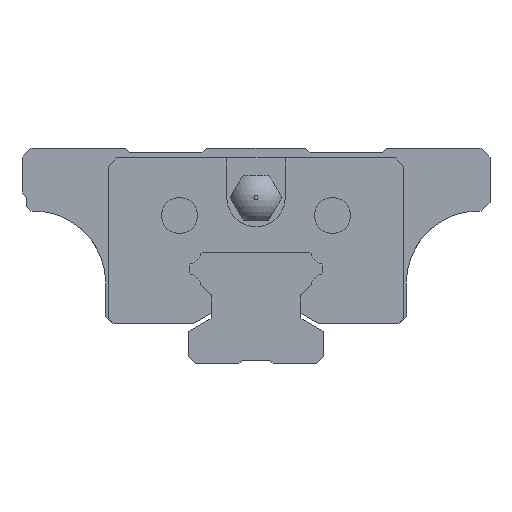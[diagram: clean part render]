
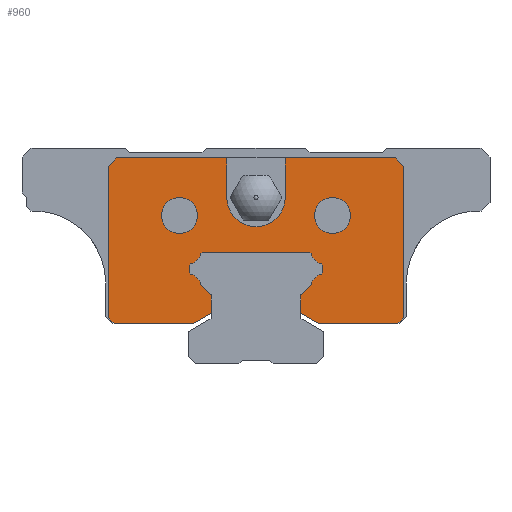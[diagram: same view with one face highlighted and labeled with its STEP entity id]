
A CAD part, front view. The second image highlights one B-rep face of the part: STEP entity #960.
In plain terms, the highlighted planar face has unit normal (0, -1, 0).
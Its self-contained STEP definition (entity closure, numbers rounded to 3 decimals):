
#229=PLANE('',#2963);
#390=LINE('',#4144,#688);
#393=LINE('',#4151,#691);
#396=LINE('',#4157,#694);
#399=LINE('',#4163,#697);
#403=LINE('',#4175,#701);
#406=LINE('',#4181,#704);
#409=LINE('',#4187,#707);
#413=LINE('',#4199,#711);
#416=LINE('',#4205,#714);
#419=LINE('',#4211,#717);
#423=LINE('',#4223,#721);
#426=LINE('',#4229,#724);
#429=LINE('',#4235,#727);
#433=LINE('',#4247,#731);
#436=LINE('',#4253,#734);
#439=LINE('',#4259,#737);
#443=LINE('',#4267,#741);
#503=LINE('',#4429,#801);
#505=LINE('',#4433,#803);
#507=LINE('',#4437,#805);
#512=LINE('',#4447,#810);
#514=LINE('',#4451,#812);
#515=LINE('',#4453,#813);
#517=LINE('',#4457,#815);
#518=LINE('',#4459,#816);
#519=LINE('',#4468,#817);
#520=LINE('',#4469,#818);
#688=VECTOR('',#3361,1.);
#691=VECTOR('',#3366,1.);
#694=VECTOR('',#3371,1.);
#697=VECTOR('',#3376,1.);
#701=VECTOR('',#3388,1.);
#704=VECTOR('',#3393,1.);
#707=VECTOR('',#3398,1.);
#711=VECTOR('',#3410,1.);
#714=VECTOR('',#3415,1.);
#717=VECTOR('',#3420,1.);
#721=VECTOR('',#3432,1.);
#724=VECTOR('',#3437,1.);
#727=VECTOR('',#3442,1.);
#731=VECTOR('',#3454,1.);
#734=VECTOR('',#3459,1.);
#737=VECTOR('',#3464,1.);
#741=VECTOR('',#3470,1.);
#801=VECTOR('',#3590,1.);
#803=VECTOR('',#3594,1.);
#805=VECTOR('',#3596,1.);
#810=VECTOR('',#3603,1.);
#812=VECTOR('',#3607,1.);
#813=VECTOR('',#3610,1.);
#815=VECTOR('',#3614,1.);
#816=VECTOR('',#3617,1.);
#817=VECTOR('',#3626,1.);
#818=VECTOR('',#3627,1.);
#960=ADVANCED_FACE('',(#1147,#1148,#1097),#229,.F.);
#1097=FACE_OUTER_BOUND('',#1300,.T.);
#1147=FACE_BOUND('',#1298,.T.);
#1148=FACE_BOUND('',#1299,.T.);
#1298=EDGE_LOOP('',(#1935));
#1299=EDGE_LOOP('',(#1936));
#1300=EDGE_LOOP('',(#1937,#1938,#1939,#1940,#1941,#1942,#1943,#1944,#1945,
#1946,#1947,#1948,#1949,#1950,#1951,#1952,#1953,#1954,#1955,#1956,#1957,
#1958,#1959,#1960,#1961,#1962,#1963,#1964,#1965,#1966,#1967,#1968));
#1935=ORIENTED_EDGE('',*,*,#2674,.F.);
#1936=ORIENTED_EDGE('',*,*,#2675,.F.);
#1937=ORIENTED_EDGE('',*,*,#2676,.F.);
#1938=ORIENTED_EDGE('',*,*,#2677,.T.);
#1939=ORIENTED_EDGE('',*,*,#2662,.F.);
#1940=ORIENTED_EDGE('',*,*,#2667,.F.);
#1941=ORIENTED_EDGE('',*,*,#2669,.T.);
#1942=ORIENTED_EDGE('',*,*,#2670,.T.);
#1943=ORIENTED_EDGE('',*,*,#2529,.F.);
#1944=ORIENTED_EDGE('',*,*,#2532,.F.);
#1945=ORIENTED_EDGE('',*,*,#2535,.F.);
#1946=ORIENTED_EDGE('',*,*,#2538,.T.);
#1947=ORIENTED_EDGE('',*,*,#2541,.T.);
#1948=ORIENTED_EDGE('',*,*,#2544,.T.);
#1949=ORIENTED_EDGE('',*,*,#2547,.F.);
#1950=ORIENTED_EDGE('',*,*,#2550,.F.);
#1951=ORIENTED_EDGE('',*,*,#2553,.T.);
#1952=ORIENTED_EDGE('',*,*,#2556,.F.);
#1953=ORIENTED_EDGE('',*,*,#2559,.T.);
#1954=ORIENTED_EDGE('',*,*,#2562,.T.);
#1955=ORIENTED_EDGE('',*,*,#2565,.T.);
#1956=ORIENTED_EDGE('',*,*,#2568,.T.);
#1957=ORIENTED_EDGE('',*,*,#2571,.T.);
#1958=ORIENTED_EDGE('',*,*,#2574,.F.);
#1959=ORIENTED_EDGE('',*,*,#2577,.T.);
#1960=ORIENTED_EDGE('',*,*,#2580,.F.);
#1961=ORIENTED_EDGE('',*,*,#2583,.T.);
#1962=ORIENTED_EDGE('',*,*,#2586,.T.);
#1963=ORIENTED_EDGE('',*,*,#2590,.T.);
#1964=ORIENTED_EDGE('',*,*,#2672,.F.);
#1965=ORIENTED_EDGE('',*,*,#2673,.F.);
#1966=ORIENTED_EDGE('',*,*,#2658,.T.);
#1967=ORIENTED_EDGE('',*,*,#2660,.F.);
#1968=ORIENTED_EDGE('',*,*,#2678,.F.);
#2217=VERTEX_POINT('',#4143);
#2218=VERTEX_POINT('',#4145);
#2220=VERTEX_POINT('',#4150);
#2222=VERTEX_POINT('',#4156);
#2224=VERTEX_POINT('',#4162);
#2226=VERTEX_POINT('',#4168);
#2228=VERTEX_POINT('',#4174);
#2230=VERTEX_POINT('',#4180);
#2232=VERTEX_POINT('',#4186);
#2234=VERTEX_POINT('',#4192);
#2236=VERTEX_POINT('',#4198);
#2238=VERTEX_POINT('',#4204);
#2240=VERTEX_POINT('',#4210);
#2242=VERTEX_POINT('',#4216);
#2244=VERTEX_POINT('',#4222);
#2246=VERTEX_POINT('',#4228);
#2248=VERTEX_POINT('',#4234);
#2250=VERTEX_POINT('',#4240);
#2252=VERTEX_POINT('',#4246);
#2254=VERTEX_POINT('',#4252);
#2256=VERTEX_POINT('',#4258);
#2259=VERTEX_POINT('',#4266);
#2305=VERTEX_POINT('',#4428);
#2306=VERTEX_POINT('',#4430);
#2307=VERTEX_POINT('',#4434);
#2308=VERTEX_POINT('',#4436);
#2309=VERTEX_POINT('',#4438);
#2312=VERTEX_POINT('',#4446);
#2313=VERTEX_POINT('',#4450);
#2314=VERTEX_POINT('',#4456);
#2315=VERTEX_POINT('',#4462);
#2316=VERTEX_POINT('',#4464);
#2317=VERTEX_POINT('',#4466);
#2318=VERTEX_POINT('',#4467);
#2529=EDGE_CURVE('',#2217,#2218,#390,.T.);
#2532=EDGE_CURVE('',#2220,#2217,#393,.T.);
#2535=EDGE_CURVE('',#2222,#2220,#396,.T.);
#2538=EDGE_CURVE('',#2222,#2224,#399,.T.);
#2541=EDGE_CURVE('',#2224,#2226,#2756,.T.);
#2544=EDGE_CURVE('',#2226,#2228,#403,.T.);
#2547=EDGE_CURVE('',#2230,#2228,#406,.T.);
#2550=EDGE_CURVE('',#2232,#2230,#409,.T.);
#2553=EDGE_CURVE('',#2232,#2234,#2758,.T.);
#2556=EDGE_CURVE('',#2236,#2234,#413,.T.);
#2559=EDGE_CURVE('',#2236,#2238,#416,.T.);
#2562=EDGE_CURVE('',#2238,#2240,#419,.T.);
#2565=EDGE_CURVE('',#2240,#2242,#2760,.T.);
#2568=EDGE_CURVE('',#2242,#2244,#423,.T.);
#2571=EDGE_CURVE('',#2244,#2246,#426,.T.);
#2574=EDGE_CURVE('',#2248,#2246,#429,.T.);
#2577=EDGE_CURVE('',#2248,#2250,#2762,.T.);
#2580=EDGE_CURVE('',#2252,#2250,#433,.T.);
#2583=EDGE_CURVE('',#2252,#2254,#436,.T.);
#2586=EDGE_CURVE('',#2254,#2256,#439,.T.);
#2590=EDGE_CURVE('',#2256,#2259,#443,.T.);
#2658=EDGE_CURVE('',#2306,#2305,#503,.T.);
#2660=EDGE_CURVE('',#2307,#2305,#505,.T.);
#2662=EDGE_CURVE('',#2308,#2309,#507,.T.);
#2667=EDGE_CURVE('',#2312,#2308,#512,.T.);
#2669=EDGE_CURVE('',#2312,#2313,#514,.T.);
#2670=EDGE_CURVE('',#2313,#2218,#515,.T.);
#2672=EDGE_CURVE('',#2314,#2259,#517,.T.);
#2673=EDGE_CURVE('',#2306,#2314,#518,.T.);
#2674=EDGE_CURVE('',#2315,#2315,#2771,.T.);
#2675=EDGE_CURVE('',#2316,#2316,#2772,.T.);
#2676=EDGE_CURVE('',#2317,#2318,#2773,.T.);
#2677=EDGE_CURVE('',#2317,#2309,#519,.T.);
#2678=EDGE_CURVE('',#2318,#2307,#520,.T.);
#2756=CIRCLE('',#2899,1.55);
#2758=CIRCLE('',#2905,1.55);
#2760=CIRCLE('',#2911,1.55);
#2762=CIRCLE('',#2917,1.55);
#2771=CIRCLE('',#2960,2.);
#2772=CIRCLE('',#2961,2.);
#2773=CIRCLE('',#2962,3.25);
#2899=AXIS2_PLACEMENT_3D('',#4169,#3381,#3382);
#2905=AXIS2_PLACEMENT_3D('',#4193,#3403,#3404);
#2911=AXIS2_PLACEMENT_3D('',#4217,#3425,#3426);
#2917=AXIS2_PLACEMENT_3D('',#4241,#3447,#3448);
#2960=AXIS2_PLACEMENT_3D('',#4461,#3620,#3621);
#2961=AXIS2_PLACEMENT_3D('',#4463,#3622,#3623);
#2962=AXIS2_PLACEMENT_3D('',#4465,#3624,#3625);
#2963=AXIS2_PLACEMENT_3D('',#4470,#3628,#3629);
#3361=DIRECTION('',(-1.,0.,0.));
#3366=DIRECTION('',(-0.866,0.,-0.5));
#3371=DIRECTION('',(0.,0.,-1.));
#3376=DIRECTION('',(-0.707,0.,0.707));
#3381=DIRECTION('',(0.,-1.,0.));
#3382=DIRECTION('',(1.,0.,0.));
#3388=DIRECTION('',(-0.707,0.,0.707));
#3393=DIRECTION('',(0.,0.,-1.));
#3398=DIRECTION('',(-0.707,0.,-0.707));
#3403=DIRECTION('',(0.,-1.,0.));
#3404=DIRECTION('',(1.,0.,0.));
#3410=DIRECTION('',(-0.707,0.,-0.707));
#3415=DIRECTION('',(1.,0.,0.));
#3420=DIRECTION('',(0.707,0.,-0.707));
#3425=DIRECTION('',(0.,-1.,0.));
#3426=DIRECTION('',(1.,0.,0.));
#3432=DIRECTION('',(0.707,0.,-0.707));
#3437=DIRECTION('',(0.,0.,-1.));
#3442=DIRECTION('',(0.707,0.,0.707));
#3447=DIRECTION('',(0.,-1.,0.));
#3448=DIRECTION('',(1.,0.,0.));
#3454=DIRECTION('',(0.707,0.,0.707));
#3459=DIRECTION('',(0.,0.,-1.));
#3464=DIRECTION('',(0.866,0.,-0.5));
#3470=DIRECTION('',(1.,0.,0.));
#3590=DIRECTION('',(-0.707,0.,0.707));
#3594=DIRECTION('',(1.,0.,0.));
#3596=DIRECTION('',(1.,0.,0.));
#3603=DIRECTION('',(0.707,0.,0.707));
#3607=DIRECTION('',(0.,0.,-1.));
#3610=DIRECTION('',(0.707,0.,-0.707));
#3614=DIRECTION('',(-0.707,0.,-0.707));
#3617=DIRECTION('',(0.,0.,-1.));
#3620=DIRECTION('',(0.,-1.,0.));
#3621=DIRECTION('',(0.,0.,-1.));
#3622=DIRECTION('',(0.,-1.,0.));
#3623=DIRECTION('',(0.,0.,-1.));
#3624=DIRECTION('',(0.,-1.,0.));
#3625=DIRECTION('',(1.,0.,0.));
#3626=DIRECTION('',(0.,0.,1.));
#3627=DIRECTION('',(0.,0.,1.));
#3628=DIRECTION('',(0.,1.,0.));
#3629=DIRECTION('',(0.,0.,1.));
#4143=CARTESIAN_POINT('',(-6.941,-20.,4.1));
#4144=CARTESIAN_POINT('',(-6.941,-20.,4.1));
#4145=CARTESIAN_POINT('',(-15.759,-20.,4.1));
#4150=CARTESIAN_POINT('',(-4.93,-20.,5.261));
#4151=CARTESIAN_POINT('',(-4.93,-20.,5.261));
#4156=CARTESIAN_POINT('',(-4.93,-20.,7.214));
#4157=CARTESIAN_POINT('',(-4.93,-20.,7.214));
#4162=CARTESIAN_POINT('',(-6.131,-20.,8.415));
#4163=CARTESIAN_POINT('',(-4.93,-20.,7.214));
#4168=CARTESIAN_POINT('',(-7.285,-20.,9.569));
#4169=CARTESIAN_POINT('',(-7.64,-20.,8.06));
#4174=CARTESIAN_POINT('',(-7.43,-20.,9.714));
#4175=CARTESIAN_POINT('',(-7.285,-20.,9.569));
#4180=CARTESIAN_POINT('',(-7.43,-20.,10.586));
#4181=CARTESIAN_POINT('',(-7.43,-20.,10.586));
#4186=CARTESIAN_POINT('',(-7.285,-20.,10.731));
#4187=CARTESIAN_POINT('',(-7.285,-20.,10.731));
#4192=CARTESIAN_POINT('',(-6.131,-20.,11.885));
#4193=CARTESIAN_POINT('',(-7.64,-20.,12.24));
#4198=CARTESIAN_POINT('',(-5.986,-20.,12.03));
#4199=CARTESIAN_POINT('',(-5.986,-20.,12.03));
#4204=CARTESIAN_POINT('',(5.986,-20.,12.03));
#4205=CARTESIAN_POINT('',(-5.986,-20.,12.03));
#4210=CARTESIAN_POINT('',(6.131,-20.,11.885));
#4211=CARTESIAN_POINT('',(5.986,-20.,12.03));
#4216=CARTESIAN_POINT('',(7.285,-20.,10.731));
#4217=CARTESIAN_POINT('',(7.64,-20.,12.24));
#4222=CARTESIAN_POINT('',(7.43,-20.,10.586));
#4223=CARTESIAN_POINT('',(7.285,-20.,10.731));
#4228=CARTESIAN_POINT('',(7.43,-20.,9.714));
#4229=CARTESIAN_POINT('',(7.43,-20.,10.586));
#4234=CARTESIAN_POINT('',(7.285,-20.,9.569));
#4235=CARTESIAN_POINT('',(7.285,-20.,9.569));
#4240=CARTESIAN_POINT('',(6.131,-20.,8.415));
#4241=CARTESIAN_POINT('',(7.64,-20.,8.06));
#4246=CARTESIAN_POINT('',(4.93,-20.,7.214));
#4247=CARTESIAN_POINT('',(4.93,-20.,7.214));
#4252=CARTESIAN_POINT('',(4.93,-20.,5.261));
#4253=CARTESIAN_POINT('',(4.93,-20.,7.214));
#4258=CARTESIAN_POINT('',(6.941,-20.,4.1));
#4259=CARTESIAN_POINT('',(4.93,-20.,5.261));
#4266=CARTESIAN_POINT('',(15.759,-20.,4.1));
#4267=CARTESIAN_POINT('',(6.941,-20.,4.1));
#4428=CARTESIAN_POINT('',(15.45,-20.,22.5));
#4429=CARTESIAN_POINT('',(16.4,-20.,21.55));
#4430=CARTESIAN_POINT('',(16.4,-20.,21.55));
#4433=CARTESIAN_POINT('',(-15.45,-20.,22.5));
#4434=CARTESIAN_POINT('',(3.25,-20.,22.5));
#4436=CARTESIAN_POINT('',(-15.45,-20.,22.5));
#4437=CARTESIAN_POINT('',(-15.45,-20.,22.5));
#4438=CARTESIAN_POINT('',(-3.25,-20.,22.5));
#4446=CARTESIAN_POINT('',(-16.4,-20.,21.55));
#4447=CARTESIAN_POINT('',(-16.4,-20.,21.55));
#4450=CARTESIAN_POINT('',(-16.4,-20.,4.741));
#4451=CARTESIAN_POINT('',(-16.4,-20.,21.55));
#4453=CARTESIAN_POINT('',(-16.4,-20.,4.741));
#4456=CARTESIAN_POINT('',(16.4,-20.,4.741));
#4457=CARTESIAN_POINT('',(16.4,-20.,4.741));
#4459=CARTESIAN_POINT('',(16.4,-20.,21.55));
#4461=CARTESIAN_POINT('',(8.5,-20.,16.1));
#4462=CARTESIAN_POINT('',(8.5,-20.,14.1));
#4463=CARTESIAN_POINT('',(-8.5,-20.,16.1));
#4464=CARTESIAN_POINT('',(-8.5,-20.,14.1));
#4465=CARTESIAN_POINT('',(0.,-20.,18.1));
#4466=CARTESIAN_POINT('',(-3.25,-20.,18.1));
#4467=CARTESIAN_POINT('',(3.25,-20.,18.1));
#4468=CARTESIAN_POINT('',(-3.25,-20.,18.1));
#4469=CARTESIAN_POINT('',(3.25,-20.,18.1));
#4470=CARTESIAN_POINT('',(-7.64,-20.,8.06));
